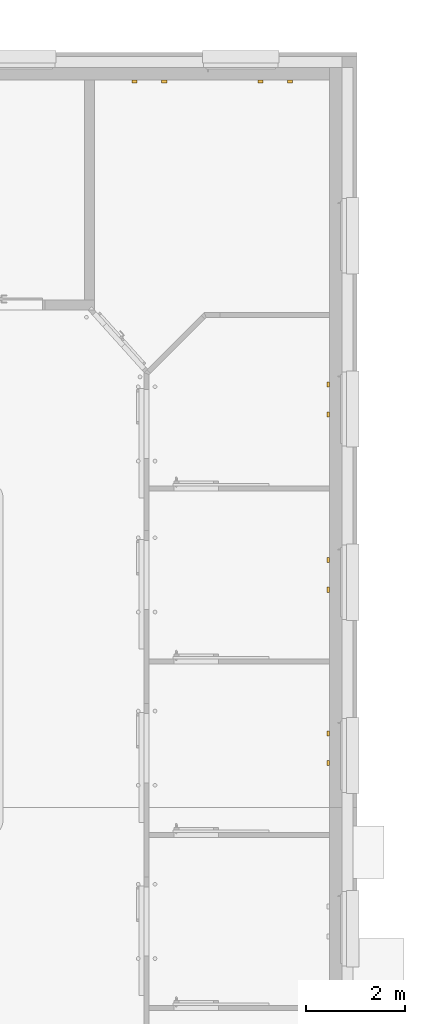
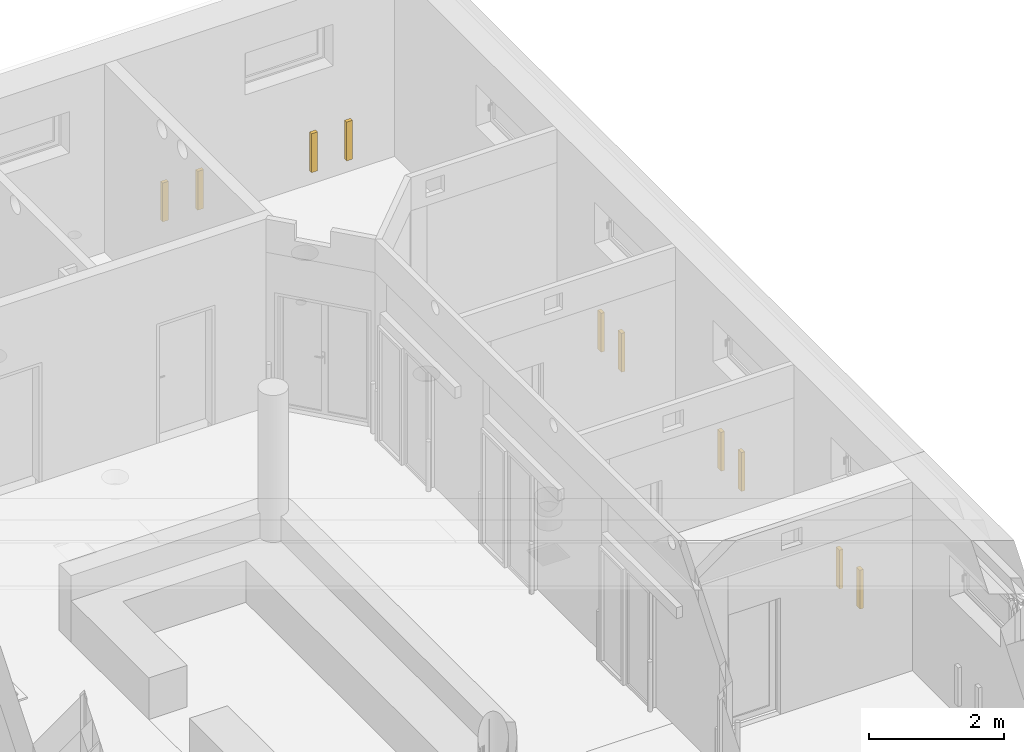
# One storey, part 136 of 140: 10 railings.
"""IFC4 building model written with IfcOpenShell, lengths in metres."""

from ifc_helpers import new_model, entity, si_unit, converted_unit, derived_unit, frame, origin, place, context, subcontext, project, spatial, faceted_brep, element, save


model = new_model("IFC4")

# Units and contexts
model_context = context("Model", 3, precision=1e-05, world=origin())
body_context = subcontext(model_context, "Body", "Model", "MODEL_VIEW")
ifc_project = project(units=[si_unit("LENGTHUNIT", "METRE"), si_unit("AREAUNIT", "SQUARE_METRE"), si_unit("VOLUMEUNIT", "CUBIC_METRE"), si_unit("MASSUNIT", "GRAM", prefix="KILO"), converted_unit("PLANEANGLEUNIT", "DEGREE", entity("IfcPlaneAngleMeasure", 0.0174532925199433), si_unit("PLANEANGLEUNIT", "RADIAN"), dimensions=[0, 0, 0, 0, 0, 0, 0]), derived_unit("THERMALTRANSMITTANCEUNIT", [(si_unit("POWERUNIT", "WATT"), 1), (si_unit("THERMODYNAMICTEMPERATUREUNIT", "KELVIN"), -1), (si_unit("LENGTHUNIT", "METRE"), -2)]), derived_unit("VOLUMETRICFLOWRATEUNIT", [(si_unit("LENGTHUNIT", "METRE"), 3), (converted_unit("TIMEUNIT", "hour", entity("IfcTimeMeasure", 3600.0), si_unit("TIMEUNIT", "SECOND"), dimensions=[0, 0, 1, 0, 0, 0, 0]), -1), (si_unit("LENGTHUNIT", "METRE"), -1)])], contexts=[model_context])

# Site, building, storey
site_placement = place(None, origin())
site = spatial("IfcSite", under=ifc_project, at=site_placement, Name="3. ASŘ", CompositionType="ELEMENT")
building_placement = place(site_placement, origin())
building = spatial("IfcBuilding", under=site, at=building_placement, Name="Pavilon C", CompositionType="ELEMENT")
storey_placement = place(building_placement, origin())
storey = spatial("IfcBuildingStorey", under=building, at=storey_placement, Name="Půdorys 1.NP", CompositionType="ELEMENT", Elevation=0.0)

# Railings
for number, where in (
    (1, (63.4899999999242, 19.047499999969, 0.25)),
    (2, (63.4899999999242, 18.447499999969, 0.25)),
    (3, (63.49, 22.549, 0.25)),
    (4, (63.49, 21.949, 0.25)),
    (5, (63.49, 26.093052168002, 0.25)),
    (6, (63.49, 25.493052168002, 0.25)),
):
    element("IfcRailing", number, at=place(storey_placement, frame(where)), inside=storey, Name="VERTIKÁLNÍ CHRÁNIČ", PredefinedType="USERDEFINED", context=body_context, shape_type="Brep", body=[
        faceted_brep([(0.0, 0.0, 0.7), (0.06, 0.0, 0.7), (0.06, 0.0, 1.70530256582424e-16), (0.0, 0.0, 5.6843418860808e-17), (0.0, 0.102, 0.7), (0.0, 0.102, 5.6843418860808e-17), (0.06, 0.102, 1.70530256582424e-16), (0.06, 0.102, 0.7)], [[[0, 1, 2, 3]], [[4, 5, 6, 7]], [[0, 4, 7, 1]], [[1, 7, 6, 2]], [[2, 6, 5, 3]], [[3, 5, 4, 0]]], orient=[[False], [False], [False], [False], [False], [False]]),
    ])
for number, where in (
    (7, (62.0970438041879, 32.24, 0.25)),
    (8, (62.6970438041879, 32.24, 0.25)),
    (9, (59.5559394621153, 32.24, 0.25)),
    (10, (60.1559394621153, 32.24, 0.25)),
):
    element("IfcRailing", number, at=place(storey_placement, frame(where)), inside=storey, Name="VERTIKÁLNÍ CHRÁNIČ", PredefinedType="USERDEFINED", context=body_context, shape_type="Brep", body=[
        faceted_brep([(0.102, 0.0, 0.7), (0.102, 0.06, 0.7), (0.102, 0.06, 1.70530256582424e-16), (0.102, 0.0, 5.6843418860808e-17), (0.0, 0.0, 0.7), (0.0, 0.0, 5.6843418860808e-17), (0.0, 0.06, 1.70530256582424e-16), (0.0, 0.06, 0.7)], [[[0, 1, 2, 3]], [[4, 5, 6, 7]], [[0, 4, 7, 1]], [[1, 7, 6, 2]], [[2, 6, 5, 3]], [[3, 5, 4, 0]]], orient=[[False], [False], [False], [False], [False], [False]]),
    ])

save(model, "model.ifc")
